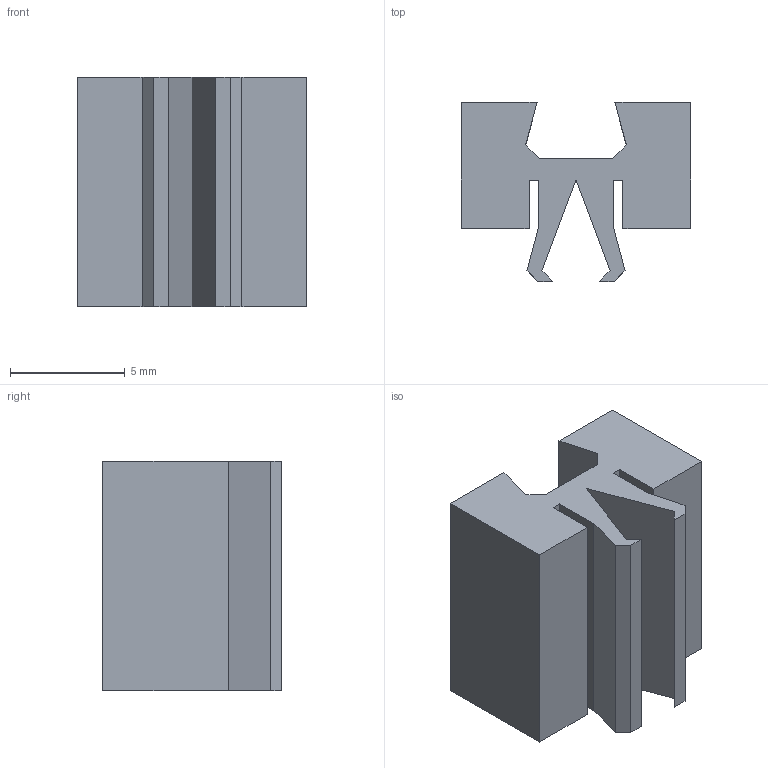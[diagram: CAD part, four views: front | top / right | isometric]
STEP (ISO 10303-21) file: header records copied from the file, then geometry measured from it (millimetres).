
FILE_DESCRIPTION(/* description */ (''),/* implementation_level */ '2;1');
FILE_NAME(/* name */ 'C:/Users/priba/Documents/Temp/Brick1x1x0.55.step',/* time_stamp */ '2019-11-01T23:12:22+01:00',/* author */ (''),/* organization */ (''),/* preprocessor_version */ 'ST-DEVELOPER v18',/* originating_system */ 'Autodesk Translation Framework v8.9.1.1155',/* authorisation */ '');
FILE_SCHEMA (('AUTOMOTIVE_DESIGN { 1 0 10303 214 3 1 1 }'));
Length unit declared in the file: millimetre
Products named in the file (1): Brick1x1x0.55
Bounding box: 10 x 7.81 x 10 mm (x, y, z)
Volume: 454.8 mm3; surface area: 667.1 mm2
Topology: 1 solids, 1 shells, 30 faces, 84 edges, 56 vertices
Faces by surface type: plane 30
Entity records: 970 total; most frequent: CARTESIAN_POINT 171, ORIENTED_EDGE 168, DIRECTION 146, LINE 84, VECTOR 84, EDGE_CURVE 84, VERTEX_POINT 56, AXIS2_PLACEMENT_3D 31
